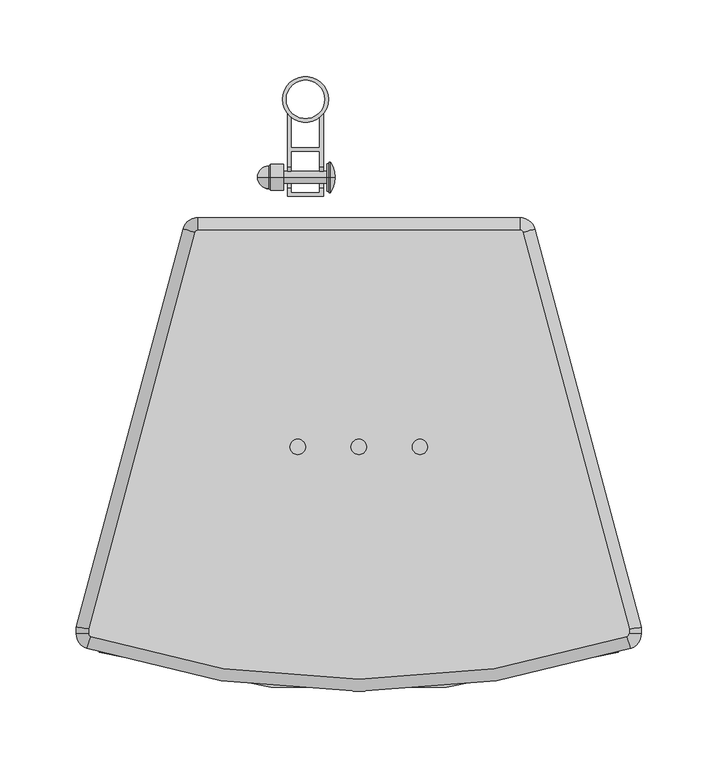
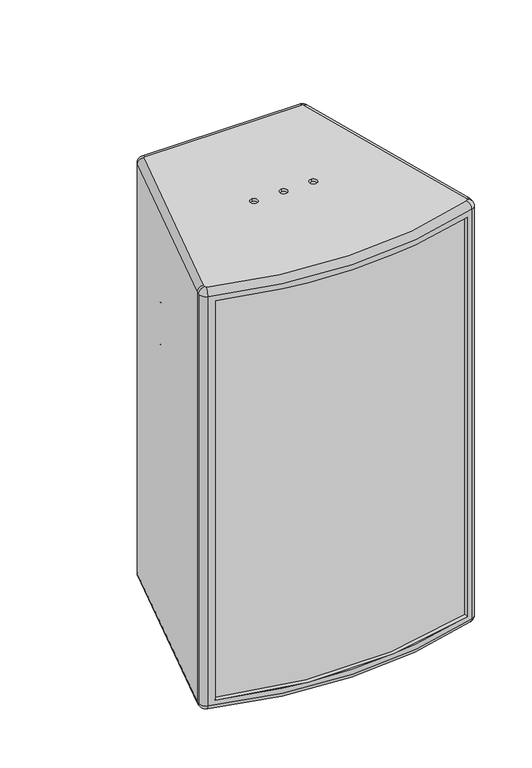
"""IFC4 building model written with IfcOpenShell, lengths in millimetres: proxy geometry, ePS12-WM02-WVM : ePS12-WM02-WVM."""

from ifc_helpers import new_model, si_unit, point, frame, frame_2d, origin, place, context, project, spatial, polyline, circle_curve, ellipse_curve, trimmed, segment, composite_curve, outline, extrude, source, transform, mapped, element, save
from ifc_brep_helpers import plane_surface, cylinder_surface, revolved_surface, advanced_brep


def generic_models_6117f933(model_context):
    return source(origin(), model_context, "Body", "SolidModel", [
        advanced_brep(
        [(34.9999424, -258.4522578, 264.6488598), (34.9999424, -248.4522578, 264.6488598), (34.9999424, -248.4522578, 268.6488598), (34.9999424, -258.4522578, 268.6488598), (74.9999424, -258.4522578, 264.6488598), (74.9999424, -248.4522578, 264.6488598), (74.9999424, -248.4522578, 268.6488598), (74.9999424, -258.4522578, 268.6488598), (-135.0000576, -387.8517681, 253.6488598), (-135.0000576, -382.6679316, 253.6488598), (204.9999424, -382.6679316, 253.6488598), (204.9999424, -387.8517681, 253.6488598), (204.9999424, -387.8517681, -316.3511402), (204.9999424, -382.6679316, -316.3511402), (-135.0000576, -382.6679316, -316.3511402), (-135.0000576, -387.8517681, -316.3511402), (34.9999424, -248.4522578, -327.3511402), (34.9999424, -258.4522578, -327.3511402), (-5.0000576, -248.4522578, -327.3511402), (-5.0000576, -258.4522578, -327.3511402), (74.9999424, -248.4522578, -327.3511402), (74.9999424, -258.4522578, -327.3511402), (-150.0000576, -371.5, 260.6488598), (-80.1756624, -110.9118096, 260.6488598), (-80.1756624, -110.9118096, -323.3511402), (-150.0000576, -371.5, -323.3511402), (-150.0000576, -375.778184, 260.6488598), (-150.0000576, -375.778184, -323.3511402), (213.0901815, -385.2887267, 260.6488598), (-143.0902966, -385.2887267, 260.6488598), (-143.0902966, -385.2887267, -323.3511439), (213.0901815, -385.2887267, -323.3511402), (219.9999424, -371.5, 260.6488598), (219.9999424, -375.778184, 260.6488598), (219.9999424, -375.778184, -323.3511402), (219.9999424, -371.5, -323.3511402), (150.1755473, -110.9118096, 260.6488598), (150.1755473, -110.9118096, -323.3511402), (140.516289, -103.5, 260.6488598), (140.516289, -103.5, -323.3511402), (-5.6566602, -108.4522578, 38.6488598), (5.6566602, -108.4522578, 38.6488598), (5.6566602, -103.5, 38.6488598), (-5.6566602, -103.5, 38.6488598), (211.9999424, -375.778184, 268.6488598), (210.6179903, -377.6802926, 268.6488598), (-140.6181054, -377.6802926, 268.6488598), (-142.0000576, -375.778184, 268.6488598), (-142.0000576, -372.55322, 268.6488598), (-72.4482558, -112.9823619, 268.6488598), (-70.5164041, -111.5, 268.6488598), (-70.5164041, -103.5, 260.6488598), (140.516289, -111.5, 268.6488598), (142.4481406, -112.9823619, 268.6488598), (211.9999424, -372.55322, 268.6488598), (-5.0000576, -258.4522578, 268.6488598), (-5.0000576, -248.4522578, 268.6488598), (140.516289, -111.5, -331.3511402), (142.4481406, -112.9823619, -331.3511402), (211.9999424, -372.55322, -331.3511402), (211.9999424, -375.778184, -331.3511402), (210.6179903, -377.6802926, -331.3511402), (-140.6181054, -377.6802926, -331.3511402), (-142.0000576, -375.778184, -331.3511402), (-142.0000576, -372.55322, -331.3511402), (-72.4482558, -112.9823619, -331.3511402), (-70.5164041, -111.5, -331.3511402), (34.9999424, -248.4522578, -331.3511402), (34.9999424, -258.4522578, -331.3511402), (-5.0000576, -248.4522578, -331.3511402), (-5.0000576, -258.4522578, -331.3511402), (74.9999424, -248.4522578, -331.3511402), (74.9999424, -258.4522578, -331.3511402), (-5.0000576, -248.4522578, 264.6488598), (-5.0000576, -258.4522578, 264.6488598), (75.6566602, -108.4522578, -31.3511402), (64.3433398, -108.4522578, -31.3511402), (5.6566602, -108.4522578, -31.3511402), (-5.6566602, -108.4522578, -31.3511402), (64.3433398, -103.5, -31.3511402), (75.6566602, -103.5, -31.3511402), (-70.5164041, -103.5, -323.3511402), (5.6566602, -103.5, -31.3511402), (-5.6566602, -103.5, -31.3511402)],
        [
            (0, 1, circle_curve(frame((34.9999424, -253.4522578, 264.6488598), z_axis=(0.0, 0.0, -1.0), x_axis=(0.0, -1.0, 0.0)), 5.0)),
            (1, 2),
            (2, 3, circle_curve(frame((34.9999424, -253.4522578, 268.6488598), z_axis=(0.0, 0.0, 1.0), x_axis=(0.0, -1.0, 0.0)), 5.0)),
            (3, 0),
            (4, 5, circle_curve(frame((74.9999424, -253.4522578, 264.6488598), z_axis=(0.0, 0.0, -1.0), x_axis=(0.0, -1.0, 0.0)), 5.0)),
            (5, 6),
            (6, 7, circle_curve(frame((74.9999424, -253.4522578, 268.6488598), z_axis=(0.0, 0.0, 1.0), x_axis=(0.0, -1.0, 0.0)), 5.0)),
            (7, 4),
            (8, 9),
            (9, 10, circle_curve(frame((34.9999424, 169.3041528, 253.6488598), z_axis=(0.0, 0.0, 1.0), x_axis=(1.0, 0.0, 0.0)), 577.5579469)),
            (10, 11),
            (11, 8, circle_curve(frame((34.9999424, 162.8031136, 253.6488598), z_axis=(0.0, 0.0, -1.0), x_axis=(1.0, 0.0, 0.0)), 576.2992267)),
            (12, 13),
            (13, 14, circle_curve(frame((34.9999424, 169.3041528, -316.3511402), z_axis=(0.0, 0.0, -1.0), x_axis=(1.0, 0.0, 0.0)), 577.5579469)),
            (14, 15),
            (15, 12, circle_curve(frame((34.9999424, 162.8031136, -316.3511402), z_axis=(0.0, 0.0, 1.0), x_axis=(1.0, 0.0, 0.0)), 576.2992267)),
            (16, 17, circle_curve(frame((34.9999424, -253.4522578, -327.3511402), z_axis=(0.0, 0.0, -1.0), x_axis=(0.0, -1.0, 0.0)), 5.0)),
            (17, 16, circle_curve(frame((34.9999424, -253.4522578, -327.3511402), z_axis=(0.0, 0.0, -1.0), x_axis=(0.0, -1.0, 0.0)), 5.0)),
            (18, 19, circle_curve(frame((-5.0000576, -253.4522578, -327.3511402), z_axis=(0.0, 0.0, -1.0), x_axis=(0.0, -1.0, 0.0)), 5.0)),
            (19, 18, circle_curve(frame((-5.0000576, -253.4522578, -327.3511402), z_axis=(0.0, 0.0, -1.0), x_axis=(0.0, -1.0, 0.0)), 5.0)),
            (20, 21, circle_curve(frame((74.9999424, -253.4522578, -327.3511402), z_axis=(0.0, 0.0, -1.0), x_axis=(0.0, -1.0, 0.0)), 5.0)),
            (21, 20, circle_curve(frame((74.9999424, -253.4522578, -327.3511402), z_axis=(0.0, 0.0, -1.0), x_axis=(0.0, -1.0, 0.0)), 5.0)),
            (22, 23),
            (23, 24),
            (24, 25),
            (25, 22),
            (26, 22),
            (25, 27),
            (27, 26),
            (28, 29, circle_curve(frame((34.9999424, 162.8031136, 260.6488598), z_axis=(0.0, 0.0, -1.0), x_axis=(1.0, 0.0, 0.0)), 576.2992267)),
            (29, 30),
            (30, 31, circle_curve(frame((34.9999424, 162.8031136, -323.3511402), z_axis=(0.0, 0.0, 1.0), x_axis=(1.0, 0.0, 0.0)), 576.2992267)),
            (31, 28),
            (11, 12),
            (15, 8),
            (32, 33),
            (33, 34),
            (34, 35),
            (35, 32),
            (36, 32),
            (35, 37),
            (37, 36),
            (38, 36, circle_curve(frame((140.516289, -113.5, 260.6488598), z_axis=(0.0, 0.0, -1.0), x_axis=(1.0, 0.0, 0.0)), 10.0)),
            (37, 39, circle_curve(frame((140.516289, -113.5, -323.3511402), z_axis=(0.0, 0.0, 1.0), x_axis=(1.0, 0.0, 0.0)), 10.0)),
            (39, 38),
            (40, 41, circle_curve(frame((0.0, -108.4522578, 38.6488598), z_axis=(0.0, -1.0, 0.0), x_axis=(-1.0, 0.0, 0.0)), 5.6566602)),
            (41, 42),
            (42, 43, circle_curve(frame((0.0, -103.5, 38.6488598), z_axis=(0.0, 1.0, 0.0), x_axis=(-1.0, 0.0, 0.0)), 5.6566602)),
            (43, 40),
            (41, 40, circle_curve(frame((0.0, -108.4522578, 38.6488598), z_axis=(0.0, -1.0, 0.0), x_axis=(-1.0, 0.0, 0.0)), 5.6566602)),
            (43, 42, circle_curve(frame((0.0, -103.5, 38.6488598), z_axis=(0.0, 1.0, 0.0), x_axis=(-1.0, 0.0, 0.0)), 5.6566602)),
            (10, 13),
            (33, 44, circle_curve(frame((211.9999424, -375.778184, 260.6488598), z_axis=(0.0, -1.0, 0.0), x_axis=(1.0, 0.0, 0.0)), 8.0)),
            (44, 45, circle_curve(frame((209.9999424, -375.778184, 268.6488598), z_axis=(0.0, 0.0, -1.0), x_axis=(1.0, 0.0, 0.0)), 2.0)),
            (45, 28, circle_curve(frame((210.6179903, -377.6802926, 260.6488598), z_axis=(0.9510542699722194, 0.30902390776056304, 0.0), x_axis=(0.30902390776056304, -0.9510542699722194, 0.0)), 8.0)),
            (28, 33, circle_curve(frame((209.9999424, -375.778184, 260.6488598), z_axis=(0.0, 0.0, 1.0), x_axis=(1.0, 0.0, 0.0)), 10.0)),
            (45, 46, circle_curve(frame((34.9999424, 162.8031136, 268.6488598), z_axis=(0.0, 0.0, -1.0), x_axis=(0.30902390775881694, -0.9510542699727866, 0.0)), 568.2992267)),
            (46, 29, circle_curve(frame((-140.6181054, -377.6802926, 260.6488598), z_axis=(0.95105426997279, -0.3090239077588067, 0.0), x_axis=(-0.3090239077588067, -0.95105426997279, 0.0)), 8.0)),
            (46, 47, circle_curve(frame((-140.0000576, -375.778184, 268.6488598), z_axis=(0.0, 0.0, -1.0), x_axis=(-0.30902390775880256, -0.9510542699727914, 0.0)), 2.0)),
            (47, 26, circle_curve(frame((-142.0000576, -375.778184, 260.6488598), z_axis=(0.0, -1.0, 0.0), x_axis=(-1.0, 0.0, 0.0)), 8.0)),
            (26, 29, circle_curve(frame((-140.0000576, -375.778184, 260.6488598), z_axis=(0.0, 0.0, 1.0), x_axis=(-0.30902390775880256, -0.9510542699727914, 0.0)), 10.0)),
            (47, 48),
            (48, 22, ellipse_curve(frame((-142.0000576, -372.55322, 260.6488598), z_axis=(-0.13052619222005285, -0.9914448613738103, 0.0), x_axis=(-0.9914448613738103, 0.13052619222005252, 0.0)), 8.0690317, 8.0)),
            (48, 49),
            (49, 23, circle_curve(frame((-72.4482558, -112.9823619, 260.6488598), z_axis=(-0.25881904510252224, -0.9659258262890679, 0.0), x_axis=(-0.9659258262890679, 0.25881904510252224, 0.0)), 8.0)),
            (49, 50, circle_curve(frame((-70.5164041, -113.5, 268.6488598), z_axis=(0.0, 0.0, -1.0), x_axis=(-0.965925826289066, 0.2588190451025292, 0.0)), 2.0)),
            (50, 51, circle_curve(frame((-70.5164041, -111.5, 260.6488598), z_axis=(-1.0, 0.0, 0.0), x_axis=(0.0, 1.0, 0.0)), 8.0)),
            (51, 23, circle_curve(frame((-70.5164041, -113.5, 260.6488598), z_axis=(0.0, 0.0, 1.0), x_axis=(-0.965925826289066, 0.2588190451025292, 0.0)), 10.0)),
            (52, 38, circle_curve(frame((140.516289, -111.5, 260.6488598), z_axis=(-1.0, 0.0, 0.0), x_axis=(0.0, 1.0, 0.0)), 8.0)),
            (38, 51),
            (50, 52),
            (53, 52, circle_curve(frame((140.516289, -113.5, 268.6488598), z_axis=(0.0, 0.0, 1.0), x_axis=(0.0, 1.0, 0.0)), 2.0)),
            (44, 54),
            (54, 53),
            (2, 3, circle_curve(frame((34.9999424, -253.4522578, 268.6488598), z_axis=(0.0, 0.0, -1.0), x_axis=(0.0, -1.0, 0.0)), 5.0)),
            (55, 56, circle_curve(frame((-5.0000576, -253.4522578, 268.6488598), z_axis=(0.0, 0.0, -1.0), x_axis=(0.0, -1.0, 0.0)), 5.0)),
            (56, 55, circle_curve(frame((-5.0000576, -253.4522578, 268.6488598), z_axis=(0.0, 0.0, -1.0), x_axis=(0.0, -1.0, 0.0)), 5.0)),
            (6, 7, circle_curve(frame((74.9999424, -253.4522578, 268.6488598), z_axis=(0.0, 0.0, -1.0), x_axis=(0.0, -1.0, 0.0)), 5.0)),
            (57, 58, circle_curve(frame((140.516289, -113.5, -331.3511402), z_axis=(0.0, 0.0, -1.0), x_axis=(0.0, 1.0, 0.0)), 2.0)),
            (58, 59),
            (59, 60),
            (60, 61, circle_curve(frame((209.9999424, -375.778184, -331.3511402), z_axis=(0.0, 0.0, -1.0), x_axis=(1.0, 0.0, 0.0)), 2.0)),
            (61, 62, circle_curve(frame((34.9999424, 162.8031136, -331.3511402), z_axis=(0.0, 0.0, -1.0), x_axis=(0.30902390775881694, -0.9510542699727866, 0.0)), 568.2992267)),
            (62, 63, circle_curve(frame((-140.0000576, -375.778184, -331.3511402), z_axis=(0.0, 0.0, -1.0), x_axis=(-0.30902390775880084, -0.951054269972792, 0.0)), 2.0)),
            (63, 64),
            (64, 65),
            (65, 66, circle_curve(frame((-70.5164041, -113.5, -331.3511402), z_axis=(0.0, 0.0, -1.0), x_axis=(-0.9659258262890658, 0.25881904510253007, 0.0)), 2.0)),
            (66, 57),
            (67, 68, circle_curve(frame((34.9999424, -253.4522578, -331.3511402), z_axis=(0.0, 0.0, 1.0), x_axis=(0.0, -1.0, 0.0)), 5.0)),
            (68, 67, circle_curve(frame((34.9999424, -253.4522578, -331.3511402), z_axis=(0.0, 0.0, 1.0), x_axis=(0.0, -1.0, 0.0)), 5.0)),
            (69, 70, circle_curve(frame((-5.0000576, -253.4522578, -331.3511402), z_axis=(0.0, 0.0, 1.0), x_axis=(0.0, -1.0, 0.0)), 5.0)),
            (70, 69, circle_curve(frame((-5.0000576, -253.4522578, -331.3511402), z_axis=(0.0, 0.0, 1.0), x_axis=(0.0, -1.0, 0.0)), 5.0)),
            (71, 72, circle_curve(frame((74.9999424, -253.4522578, -331.3511402), z_axis=(0.0, 0.0, 1.0), x_axis=(0.0, -1.0, 0.0)), 5.0)),
            (72, 71, circle_curve(frame((74.9999424, -253.4522578, -331.3511402), z_axis=(0.0, 0.0, 1.0), x_axis=(0.0, -1.0, 0.0)), 5.0)),
            (0, 1, circle_curve(frame((34.9999424, -253.4522578, 264.6488598), z_axis=(0.0, 0.0, 1.0), x_axis=(0.0, -1.0, 0.0)), 5.0)),
            (73, 74, circle_curve(frame((-5.0000576, -253.4522578, 264.6488598), z_axis=(0.0, 0.0, 1.0), x_axis=(0.0, -1.0, 0.0)), 5.0)),
            (74, 73, circle_curve(frame((-5.0000576, -253.4522578, 264.6488598), z_axis=(0.0, 0.0, 1.0), x_axis=(0.0, -1.0, 0.0)), 5.0)),
            (4, 5, circle_curve(frame((74.9999424, -253.4522578, 264.6488598), z_axis=(0.0, 0.0, 1.0), x_axis=(0.0, -1.0, 0.0)), 5.0)),
            (17, 68),
            (67, 16),
            (19, 70),
            (69, 18),
            (21, 72),
            (71, 20),
            (75, 76, circle_curve(frame((70.0, -108.4522578, -31.3511402), z_axis=(0.0, 1.0, 0.0), x_axis=(-1.0, 0.0, 0.0)), 5.6566602)),
            (76, 75, circle_curve(frame((70.0, -108.4522578, -31.3511402), z_axis=(0.0, 1.0, 0.0), x_axis=(-1.0, 0.0, 0.0)), 5.6566602)),
            (77, 78, circle_curve(frame((0.0, -108.4522578, -31.3511402), z_axis=(0.0, 1.0, 0.0), x_axis=(-1.0, 0.0, 0.0)), 5.6566602)),
            (78, 77, circle_curve(frame((0.0, -108.4522578, -31.3511402), z_axis=(0.0, 1.0, 0.0), x_axis=(-1.0, 0.0, 0.0)), 5.6566602)),
            (76, 79),
            (79, 80, circle_curve(frame((70.0, -103.5, -31.3511402), z_axis=(0.0, 1.0, 0.0), x_axis=(-1.0, 0.0, 0.0)), 5.6566602)),
            (80, 75),
            (80, 79, circle_curve(frame((70.0, -103.5, -31.3511402), z_axis=(0.0, 1.0, 0.0), x_axis=(-1.0, 0.0, 0.0)), 5.6566602)),
            (39, 81),
            (81, 51),
            (82, 83, circle_curve(frame((0.0, -103.5, -31.3511402), z_axis=(0.0, -1.0, 0.0), x_axis=(-1.0, 0.0, 0.0)), 5.6566602)),
            (83, 82, circle_curve(frame((0.0, -103.5, -31.3511402), z_axis=(0.0, -1.0, 0.0), x_axis=(-1.0, 0.0, 0.0)), 5.6566602)),
            (9, 14),
            (27, 30, circle_curve(frame((-140.0000576, -375.778184, -323.3511402), z_axis=(0.0, 0.0, 1.0), x_axis=(1.0, 0.0, 0.0)), 10.0)),
            (31, 34, circle_curve(frame((209.9999424, -375.778184, -323.3511402), z_axis=(0.0, 0.0, 1.0), x_axis=(1.0, 0.0, 0.0)), 10.0)),
            (53, 36, circle_curve(frame((142.4481406, -112.9823619, 260.6488598), z_axis=(-0.25881904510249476, 0.9659258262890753, 0.0), x_axis=(0.9659258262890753, 0.25881904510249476, 0.0)), 8.0)),
            (54, 32, ellipse_curve(frame((211.9999424, -372.55322, 260.6488598), z_axis=(-0.13052619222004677, 0.9914448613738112, 0.0), x_axis=(0.9914448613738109, 0.13052619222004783, 0.0)), 8.0690317, 8.0)),
            (61, 31, circle_curve(frame((210.6179903, -377.6802926, -323.3511402), z_axis=(-0.9510542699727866, -0.30902390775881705, 0.0), x_axis=(0.30902390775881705, -0.9510542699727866, 0.0)), 8.0)),
            (30, 62, circle_curve(frame((-140.6181054, -377.6802926, -323.3511402), z_axis=(0.95105426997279, -0.30902390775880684, 0.0), x_axis=(-0.30902390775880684, -0.95105426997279, 0.0)), 8.0)),
            (27, 63, circle_curve(frame((-142.0000576, -375.778184, -323.3511402), z_axis=(0.0, -0.9999999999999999, 0.0), x_axis=(-0.9999999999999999, 0.0, 0.0)), 8.0)),
            (25, 64, ellipse_curve(frame((-142.0000576, -372.55322, -323.3511402), z_axis=(-0.13052619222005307, -0.9914448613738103, 0.0), x_axis=(-0.9914448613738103, 0.13052619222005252, 0.0)), 8.0690317, 8.0)),
            (24, 65, circle_curve(frame((-72.4482558, -112.9823619, -323.3511402), z_axis=(-0.25881904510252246, -0.9659258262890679, 0.0), x_axis=(-0.9659258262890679, 0.25881904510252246, 0.0)), 8.0)),
            (24, 81, circle_curve(frame((-70.5164041, -113.5, -323.3511402), z_axis=(0.0, 0.0, -1.0), x_axis=(-0.9659258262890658, 0.25881904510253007, 0.0)), 10.0)),
            (81, 66, circle_curve(frame((-70.5164041, -111.5, -323.3511402), z_axis=(-1.0, 0.0, 0.0), x_axis=(0.0, 1.0, 0.0)), 8.0)),
            (39, 57, circle_curve(frame((140.516289, -111.5, -323.3511402), z_axis=(-1.0, 0.0, 0.0), x_axis=(0.0, 1.0, 0.0)), 8.0)),
            (73, 56),
            (55, 74),
            (78, 83),
            (82, 77),
            (37, 58, circle_curve(frame((142.4481406, -112.9823619, -323.3511402), z_axis=(-0.2588190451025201, 0.9659258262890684, 0.0), x_axis=(0.9659258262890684, 0.2588190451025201, 0.0)), 8.0)),
            (35, 59, ellipse_curve(frame((211.9999424, -372.55322, -323.3511402), z_axis=(-0.13052619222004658, 0.9914448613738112, 0.0), x_axis=(0.9914448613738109, 0.13052619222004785, 0.0)), 8.0690317, 8.0)),
            (34, 60, circle_curve(frame((211.9999424, -375.778184, -323.3511402), z_axis=(0.0, 1.0, 0.0), x_axis=(1.0, 0.0, 0.0)), 8.0)),
        ],
        [
            revolved_surface(polyline([(34.9999424, -258.4522578, 268.6488598), (34.9999424, -258.4522578, 264.6488598)]), (34.9999424, -253.4522578, 264.6488598), (0.0, 0.0, 1.0)),
            revolved_surface(polyline([(74.9999424, -258.4522578, 268.6488598), (74.9999424, -258.4522578, 264.6488598)]), (74.9999424, -253.4522578, 268.6488598), (0.0, 0.0, 1.0)),
            plane_surface(frame((204.9999424, -387.8517681, 253.6488598), z_axis=(0.0, 0.0, -1.0), x_axis=(0.0, 1.0, 0.0))),
            plane_surface(frame((204.9999424, -387.8517681, -316.3511402), z_axis=(0.0, 0.0, 1.0), x_axis=(0.0, -1.0, 0.0))),
            plane_surface(frame((34.9999424, -258.4522578, -327.3511402), z_axis=(0.0, 0.0, -1.0), x_axis=(1.0, 0.0, 0.0))),
            plane_surface(frame((-80.1756624, -110.9118096, 268.6488598), z_axis=(-0.9659258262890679, 0.25881904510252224, 0.0), x_axis=(0.0, 0.0, -1.0))),
            plane_surface(frame((-150.0000576, -371.5, 268.6488598), z_axis=(-1.0, 0.0, 0.0), x_axis=(0.0, 0.0, -1.0))),
            cylinder_surface(frame((34.9999424, 162.8031136, -331.3511402), z_axis=(0.0, 0.0, 1.0), x_axis=(1.0, 0.0, 0.0)), 576.2992267),
            plane_surface(frame((219.9999424, -375.778184, 268.6488598), z_axis=(1.0, 0.0, 0.0), x_axis=(0.0, 0.0, -1.0))),
            plane_surface(frame((219.9999424, -371.5, 268.6488598), z_axis=(0.9659258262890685, 0.25881904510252, 0.0), x_axis=(0.0, 0.0, -1.0))),
            cylinder_surface(frame((140.516289, -113.5, -331.3511402), z_axis=(0.0, 0.0, 1.0), x_axis=(1.0, 0.0, 0.0)), 10.0),
            revolved_surface(polyline([(-5.6566602, -103.5, 38.6488598), (-5.6566602, -108.4522578, 38.6488598)]), (0.0, -96.4522578, 38.6488598), (0.0, 1.0, 0.0)),
            plane_surface(frame((204.9999424, -387.8517681, 253.6488598), z_axis=(-1.0, 0.0, 0.0), x_axis=(0.0, 0.0, -1.0))),
            revolved_surface(trimmed(ellipse_curve(frame((211.9999424, -375.778184, 260.6488598), z_axis=(0.0, 1.0, 0.0), x_axis=(1.0, 0.0, 0.0)), 8.0, 8.0), [point((211.9999424, -375.778184, 268.6488598))], [point((219.9999424, -375.778184, 260.6488598))], True, "CARTESIAN"), (209.9999424, -375.778184, 268.6488598), (0.0, 0.0, -1.0)),
            revolved_surface(trimmed(ellipse_curve(frame((210.6179903, -377.6802926, 260.6488598), z_axis=(0.9510542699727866, 0.30902390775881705, 0.0), x_axis=(0.30902390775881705, -0.9510542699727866, 0.0)), 8.0, 8.0), [point((210.6179903, -377.6802926, 268.6488598))], [point((213.0901815, -385.2887267, 260.6488598))], True, "CARTESIAN"), (34.9999424, 162.8031136, 268.6488598), (0.0, 0.0, -1.0)),
            revolved_surface(trimmed(ellipse_curve(frame((-140.6181054, -377.6802926, 260.6488598), z_axis=(0.9510542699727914, -0.30902390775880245, 0.0), x_axis=(-0.30902390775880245, -0.9510542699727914, 0.0)), 8.0, 8.0), [point((-140.6181054, -377.6802926, 268.6488598))], [point((-143.0902966, -385.2887267, 260.6488598))], True, "CARTESIAN"), (-140.0000576, -375.778184, 268.6488598), (0.0, 0.0, -1.0)),
            cylinder_surface(frame((-142.0000576, -375.778184, 260.6488598), z_axis=(0.0, 1.0, 0.0), x_axis=(-1.0, 0.0, 0.0)), 8.0),
            cylinder_surface(frame((-142.2726509, -373.5705524, 260.6488598), z_axis=(0.25881904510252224, 0.9659258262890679, 0.0), x_axis=(-0.9659258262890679, 0.25881904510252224, 0.0)), 8.0),
            revolved_surface(trimmed(ellipse_curve(frame((-72.4482558, -112.9823619, 260.6488598), z_axis=(-0.2588190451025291, -0.965925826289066, 0.0), x_axis=(-0.965925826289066, 0.2588190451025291, 0.0)), 8.0, 8.0), [point((-72.4482558, -112.9823619, 268.6488598))], [point((-80.1756624, -110.9118096, 260.6488598))], True, "CARTESIAN"), (-70.5164041, -113.5, 268.6488598), (0.0, 0.0, -1.0)),
            cylinder_surface(frame((-70.5164041, -111.5, 260.6488598), z_axis=(1.0, 0.0, 0.0), x_axis=(0.0, 1.0, 0.0)), 8.0),
            plane_surface(frame((-76.6724798, -103.5, 268.6488598), z_axis=(0.0, 0.0, 1.0), x_axis=(-1.0, 0.0, 0.0))),
            plane_surface(frame((-76.6724798, -103.5, -331.3511402), z_axis=(0.0, 0.0, -1.0), x_axis=(1.0, 0.0, 0.0))),
            plane_surface(frame((34.9999424, -258.4522578, 264.6488598), z_axis=(0.0, 0.0, 1.0), x_axis=(-1.0, 0.0, 0.0))),
            revolved_surface(polyline([(34.9999424, -258.4522578, -327.3511402), (34.9999424, -258.4522578, -331.3511402)]), (34.9999424, -253.4522578, -335.3511402), (0.0, 0.0, 1.0)),
            revolved_surface(polyline([(-5.0000576, -258.4522578, -327.3511402), (-5.0000576, -258.4522578, -331.3511402)]), (-5.0000576, -253.4522578, -331.3511402), (0.0, 0.0, 1.0)),
            revolved_surface(polyline([(74.9999424, -258.4522578, -327.3511402), (74.9999424, -258.4522578, -331.3511402)]), (74.9999424, -253.4522578, -331.3511402), (0.0, 0.0, 1.0)),
            plane_surface(frame((-5.6566602, -108.4522578, -31.3511402), z_axis=(0.0, 1.0, 0.0), x_axis=(0.0, 0.0, -1.0))),
            revolved_surface(polyline([(64.3433398, -103.5, -31.3511402), (64.3433398, -108.4522578, -31.3511402)]), (70.0, -96.4522578, -31.3511402), (0.0, 1.0, 0.0)),
            plane_surface(frame((140.516289, -103.5, 268.6488598), z_axis=(0.0, 1.0, 0.0), x_axis=(0.0, 0.0, -1.0))),
            cylinder_surface(frame((34.9999424, 169.3041528, -316.3511402), z_axis=(0.0, 0.0, -1.0), x_axis=(1.0, 0.0, 0.0)), 577.5579469),
            plane_surface(frame((-135.0000576, -382.6679316, 253.6488598), z_axis=(1.0, 0.0, 0.0), x_axis=(0.0, 0.0, -1.0))),
            cylinder_surface(frame((-140.0000576, -375.778184, -331.3511402), z_axis=(0.0, 0.0, 1.0), x_axis=(1.0, 0.0, 0.0)), 10.0),
            cylinder_surface(frame((209.9999424, -375.778184, -331.3511402), z_axis=(0.0, 0.0, 1.0), x_axis=(1.0, 0.0, 0.0)), 10.0),
            revolved_surface(trimmed(ellipse_curve(frame((140.516289, -111.5, 260.6488598), z_axis=(-1.0, 0.0, 0.0), x_axis=(0.0, 1.0, 0.0)), 8.0, 8.0), [point((140.516289, -111.5, 268.6488598))], [point((140.516289, -103.5, 260.6488598))], True, "CARTESIAN"), (140.516289, -113.5, 268.6488598), (0.0, 0.0, -1.0)),
            cylinder_surface(frame((142.4481406, -112.9823619, 260.6488598), z_axis=(0.2588190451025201, -0.9659258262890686, 0.0), x_axis=(0.9659258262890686, 0.2588190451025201, 0.0)), 8.0),
            revolved_surface(trimmed(ellipse_curve(frame((210.6179903, -377.6802926, -323.3511402), z_axis=(0.9510542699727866, 0.30902390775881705, 0.0), x_axis=(0.30902390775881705, -0.9510542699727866, 0.0)), 8.0, 8.0), [point((213.0901815, -385.2887267, -323.3511402))], [point((210.6179903, -377.6802926, -331.3511402))], True, "CARTESIAN"), (34.9999424, 162.8031136, -331.3511402), (0.0, 0.0, -1.0)),
            revolved_surface(trimmed(ellipse_curve(frame((-140.6181054, -377.6802926, -323.3511402), z_axis=(0.951054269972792, -0.309023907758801, 0.0), x_axis=(-0.309023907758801, -0.951054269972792, 0.0)), 8.0, 8.0), [point((-143.0902966, -385.2887267, -323.3511402))], [point((-140.6181054, -377.6802926, -331.3511402))], True, "CARTESIAN"), (-140.0000576, -375.778184, -331.3511402), (0.0, 0.0, -1.0)),
            cylinder_surface(frame((-142.0000576, -375.778184, -323.3511402), z_axis=(0.0, 1.0, 0.0), x_axis=(-1.0, 0.0, 0.0)), 8.0),
            cylinder_surface(frame((-142.2726509, -373.5705524, -323.3511402), z_axis=(0.25881904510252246, 0.9659258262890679, 0.0), x_axis=(-0.9659258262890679, 0.25881904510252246, 0.0)), 8.0),
            revolved_surface(trimmed(ellipse_curve(frame((-72.4482558, -112.9823619, -323.3511402), z_axis=(-0.25881904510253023, -0.9659258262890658, 0.0), x_axis=(-0.9659258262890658, 0.25881904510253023, 0.0)), 8.0, 8.0), [point((-80.1756624, -110.9118096, -323.3511402))], [point((-72.4482558, -112.9823619, -331.3511402))], True, "CARTESIAN"), (-70.5164041, -113.5, -331.3511402), (0.0, 0.0, -1.0)),
            cylinder_surface(frame((-70.5164041, -111.5, -323.3511402), z_axis=(1.0, 0.0, 0.0), x_axis=(0.0, 1.0, 0.0)), 8.0),
            revolved_surface(polyline([(-5.0000576, -258.4522578, 268.6488598), (-5.0000576, -258.4522578, 264.6488598)]), (-5.0000576, -253.4522578, 268.6488598), (0.0, 0.0, 1.0)),
            revolved_surface(polyline([(-5.6566602, -103.5, -31.3511402), (-5.6566602, -108.4522578, -31.3511402)]), (0.0, -108.4522578, -31.3511402), (0.0, 1.0, 0.0)),
            cylinder_surface(frame((-70.5164041, -113.5, -331.3511402), z_axis=(0.0, 0.0, 1.0), x_axis=(1.0, 0.0, 0.0)), 10.0),
            cylinder_surface(frame((211.9999424, -371.5, 260.6488598), z_axis=(0.0, -1.0, 0.0), x_axis=(1.0, 0.0, 0.0)), 8.0),
            revolved_surface(trimmed(ellipse_curve(frame((140.516289, -111.5, -323.3511402), z_axis=(-1.0, 0.0, 0.0), x_axis=(0.0, 1.0, 0.0)), 8.0, 8.0), [point((140.516289, -103.5, -323.3511402))], [point((140.516289, -111.5, -331.3511402))], True, "CARTESIAN"), (140.516289, -113.5, -331.3511402), (0.0, 0.0, -1.0)),
            cylinder_surface(frame((142.4481406, -112.9823619, -323.3511402), z_axis=(0.25881904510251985, -0.9659258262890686, 0.0), x_axis=(0.9659258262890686, 0.25881904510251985, 0.0)), 8.0),
            cylinder_surface(frame((211.9999424, -371.5, -323.3511402), z_axis=(0.0, -1.0, 0.0), x_axis=(1.0, 0.0, 0.0)), 8.0),
            revolved_surface(trimmed(ellipse_curve(frame((211.9999424, -375.778184, -323.3511402), z_axis=(0.0, 1.0, 0.0), x_axis=(1.0, 0.0, 0.0)), 8.0, 8.0), [point((219.9999424, -375.778184, -323.3511402))], [point((211.9999424, -375.778184, -331.3511402))], True, "CARTESIAN"), (209.9999424, -375.778184, -331.3511402), (0.0, 0.0, -1.0)),
        ],
        [
            (0, [[1, 2, 3, 4]]),
            (1, [[5, 6, 7, 8]]),
            (2, [[9, 10, 11, 12]]),
            (3, [[13, 14, 15, 16]]),
            (4, [[17, 18]]),
            (4, [[19, 20]]),
            (4, [[21, 22]]),
            (5, [[23, 24, 25, 26]]),
            (6, [[27, -26, 28, 29]]),
            (7, [[30, 31, 32, 33], [-12, 34, -16, 35]]),
            (8, [[36, 37, 38, 39]]),
            (9, [[40, -39, 41, 42]]),
            (10, [[43, -42, 44, 45]]),
            (11, [[46, 47, 48, 49]]),
            (11, [[50, -49, 51, -47]]),
            (12, [[-11, 52, -13, -34]]),
            (13, [[53, 54, 55, 56]]),
            (14, [[-55, 57, 58, -30]]),
            (15, [[-58, 59, 60, 61]]),
            (16, [[-60, 62, 63, -27]]),
            (17, [[-63, 64, 65, -23]]),
            (18, [[-65, 66, 67, 68]]),
            (19, [[69, 70, -67, 71]]),
            (20, [[72, -71, -66, -64, -62, -59, -57, -54, 73, 74], [-3, 75], [76, 77], [-7, 78]]),
            (21, [[79, 80, 81, 82, 83, 84, 85, 86, 87, 88], [89, 90], [91, 92], [93, 94]]),
            (22, [[-1, 95]]),
            (22, [[96, 97]]),
            (22, [[-5, 98]]),
            (23, [[-18, 99, -89, 100]]),
            (24, [[-20, 101, -91, 102]]),
            (25, [[-22, 103, -93, 104]]),
            (26, [[105, 106]]),
            (26, [[-46, -50]]),
            (26, [[107, 108]]),
            (27, [[-106, 109, 110, 111]]),
            (27, [[-105, -111, 112, -109]]),
            (28, [[-70, -45, 113, 114], [115, 116], [-110, -112], [-48, -51]]),
            (29, [[-10, 117, -14, -52]]),
            (30, [[-9, -35, -15, -117]]),
            (31, [[-61, -29, 118, -31]]),
            (32, [[-56, -33, 119, -37]]),
            (33, [[120, -43, -69, -72]]),
            (34, [[-120, -74, 121, -40]]),
            (35, [[122, -32, 123, -83]]),
            (36, [[-123, -118, 124, -84]]),
            (37, [[-124, -28, 125, -85]]),
            (38, [[-125, -25, 126, -86]]),
            (39, [[-126, 127, 128, -87]]),
            (40, [[129, -88, -128, -113]]),
            (0, [[-95, -4, -75, -2]]),
            (41, [[-96, 130, -76, 131]]),
            (41, [[-97, -131, -77, -130]]),
            (1, [[-98, -8, -78, -6]]),
            (23, [[-17, -100, -90, -99]]),
            (24, [[-19, -102, -92, -101]]),
            (25, [[-21, -104, -94, -103]]),
            (42, [[-108, 132, -115, 133]]),
            (42, [[-107, -133, -116, -132]]),
            (43, [[-68, -114, -127, -24]]),
            (44, [[-121, -73, -53, -36]]),
            (45, [[134, -79, -129, -44]]),
            (46, [[-134, -41, 135, -80]]),
            (47, [[-135, -38, 136, -81]]),
            (48, [[-136, -119, -122, -82]]),
        ],
    ),
        advanced_brep(
        [(16.4820858, -77.0, -39.5), (16.4820858, -77.0, -19.5), (19.4412891, -77.0, -29.5), (15.45, -77.0, -39.5), (15.45, -77.0, -19.5), (15.45, -77.0, -38.5), (15.45, -77.0, -20.5), (14.25, -77.0, -38.5), (14.25, -77.0, -20.5), (14.25, -77.0, -33.5), (14.25, -77.0, -25.5), (-14.25, -77.0, -33.5), (-14.25, -77.0, -25.5), (-14.25, -77.0, -38.018295), (-14.25, -77.0, -20.981705), (-22.8324989, -77.0, -38.018295), (-22.8324989, -77.0, -20.981705), (-23.85, -77.0, -37.0007939), (-23.85, -77.0, -21.9992061), (-31.3507939, -77.0, -29.5)],
        [
            (0, 1, circle_curve(frame((16.4820858, -77.0, -29.5), z_axis=(1.0, 0.0, 0.0), x_axis=(0.0, 0.0, 1.0)), 10.0)),
            (1, 2, circle_curve(frame((1.2644996, -77.0, -29.4410373), z_axis=(0.0, 1.0, 0.0), x_axis=(1.0, 0.0, 0.0)), 18.1768851)),
            (2, 0, circle_curve(frame((1.2644996, -77.0, -29.5589627), z_axis=(0.0, 1.0, 0.0), x_axis=(1.0, 0.0, 0.0)), 18.1768851)),
            (1, 0, circle_curve(frame((16.4820858, -77.0, -29.5), z_axis=(1.0, 0.0, 0.0), x_axis=(0.0, 0.0, 1.0)), 10.0)),
            (3, 4, circle_curve(frame((15.45, -77.0, -29.5), z_axis=(1.0, 0.0, 0.0), x_axis=(0.0, 0.0, 1.0)), 10.0)),
            (4, 1),
            (0, 3),
            (4, 3, circle_curve(frame((15.45, -77.0, -29.5), z_axis=(1.0, 0.0, 0.0), x_axis=(0.0, 0.0, 1.0)), 10.0)),
            (5, 6, circle_curve(frame((15.45, -77.0, -29.5), z_axis=(1.0, 0.0, 0.0), x_axis=(0.0, 0.0, 1.0)), 9.0)),
            (6, 4),
            (3, 5),
            (6, 5, circle_curve(frame((15.45, -77.0, -29.5), z_axis=(1.0, 0.0, 0.0), x_axis=(0.0, 0.0, 1.0)), 9.0)),
            (7, 8, circle_curve(frame((14.25, -77.0, -29.5), z_axis=(1.0, 0.0, 0.0), x_axis=(0.0, 0.0, 1.0)), 9.0)),
            (8, 6),
            (5, 7),
            (8, 7, circle_curve(frame((14.25, -77.0, -29.5), z_axis=(1.0, 0.0, 0.0), x_axis=(0.0, 0.0, 1.0)), 9.0)),
            (9, 10, circle_curve(frame((14.25, -77.0, -29.5), z_axis=(1.0, 0.0, 0.0), x_axis=(0.0, 0.0, 1.0)), 4.0)),
            (10, 8),
            (7, 9),
            (10, 9, circle_curve(frame((14.25, -77.0, -29.5), z_axis=(1.0, 0.0, 0.0), x_axis=(0.0, 0.0, 1.0)), 4.0)),
            (11, 12, circle_curve(frame((-14.25, -77.0, -29.5), z_axis=(1.0, 0.0, 0.0), x_axis=(0.0, 0.0, 1.0)), 4.0)),
            (12, 10),
            (9, 11),
            (12, 11, circle_curve(frame((-14.25, -77.0, -29.5), z_axis=(1.0, 0.0, 0.0), x_axis=(0.0, 0.0, 1.0)), 4.0)),
            (13, 14, circle_curve(frame((-14.25, -77.0, -29.5), z_axis=(1.0, 0.0, 0.0), x_axis=(0.0, 0.0, 1.0)), 8.518295)),
            (14, 12),
            (11, 13),
            (14, 13, circle_curve(frame((-14.25, -77.0, -29.5), z_axis=(1.0, 0.0, 0.0), x_axis=(0.0, 0.0, 1.0)), 8.518295)),
            (15, 16, circle_curve(frame((-22.8324989, -77.0, -29.5), z_axis=(1.0, 0.0, 0.0), x_axis=(0.0, 0.0, 1.0)), 8.518295)),
            (16, 14),
            (13, 15),
            (16, 15, circle_curve(frame((-22.8324989, -77.0, -29.5), z_axis=(1.0, 0.0, 0.0), x_axis=(0.0, 0.0, 1.0)), 8.518295)),
            (17, 18, circle_curve(frame((-23.85, -77.0, -29.5), z_axis=(1.0, 0.0, 0.0), x_axis=(0.0, 0.0, 1.0)), 7.5007939)),
            (18, 16),
            (15, 17),
            (18, 17, circle_curve(frame((-23.85, -77.0, -29.5), z_axis=(1.0, 0.0, 0.0), x_axis=(0.0, 0.0, 1.0)), 7.5007939)),
            (19, 18, circle_curve(frame((-23.85, -77.0, -29.5), z_axis=(0.0, 1.0, 0.0), x_axis=(1.0, 0.0, 0.0)), 7.5007939)),
            (17, 19, circle_curve(frame((-23.85, -77.0, -29.5), z_axis=(0.0, 1.0, 0.0), x_axis=(1.0, 0.0, 0.0)), 7.5007939)),
        ],
        [
            revolved_surface(trimmed(ellipse_curve(frame((1.2644996, -77.0, -29.4410373), z_axis=(0.0, -1.0, 0.0), x_axis=(1.0, 0.0, 0.0)), 18.1768851, 18.1768851), [point((19.4412891, -77.0, -29.5))], [point((16.4820858, -77.0, -19.5))], True, "CARTESIAN"), (-34.7415568, -77.0, -29.5), (-1.0, 0.0, 0.0)),
            cylinder_surface(frame((-34.7415568, -77.0, -29.5), z_axis=(-1.0, 0.0, 0.0), x_axis=(0.0, 0.0, 1.0)), 10.0),
            plane_surface(frame((15.45, -77.0, -29.5), z_axis=(-1.0, 0.0, 0.0), x_axis=(0.0, 0.0, 1.0))),
            cylinder_surface(frame((-34.7415568, -77.0, -29.5), z_axis=(-1.0, 0.0, 0.0), x_axis=(0.0, 0.0, 1.0)), 9.0),
            plane_surface(frame((14.25, -77.0, -29.5), z_axis=(-1.0, 0.0, 0.0), x_axis=(0.0, 0.0, 1.0))),
            cylinder_surface(frame((-34.7415568, -77.0, -29.5), z_axis=(-1.0, 0.0, 0.0), x_axis=(0.0, 0.0, 1.0)), 4.0),
            plane_surface(frame((-14.25, -77.0, -29.5), z_axis=(1.0, 0.0, 0.0), x_axis=(0.0, 0.0, 1.0))),
            cylinder_surface(frame((-34.7415568, -77.0, -29.5), z_axis=(-1.0, 0.0, 0.0), x_axis=(0.0, 0.0, 1.0)), 8.518295),
            revolved_surface(polyline([(-22.8324989, -77.0, -20.981705), (-23.85, -77.0, -21.9992061)]), (-34.7415568, -77.0, -29.5), (-1.0, 0.0, 0.0)),
            revolved_surface(trimmed(ellipse_curve(frame((-23.85, -77.0, -29.5), z_axis=(0.0, -1.0, 0.0), x_axis=(1.0, 0.0, 0.0)), 7.5007939, 7.5007939), [point((-23.85, -77.0, -21.9992061))], [point((-31.3507939, -77.0, -29.5))], True, "CARTESIAN"), (-34.7415568, -77.0, -29.5), (-1.0, 0.0, 0.0)),
        ],
        [
            (0, [[1, 2, 3]]),
            (0, [[4, -3, -2]]),
            (1, [[5, 6, -1, 7]]),
            (1, [[8, -7, -4, -6]]),
            (2, [[9, 10, -5, 11]]),
            (2, [[12, -11, -8, -10]]),
            (3, [[13, 14, -9, 15]]),
            (3, [[16, -15, -12, -14]]),
            (4, [[17, 18, -13, 19]]),
            (4, [[20, -19, -16, -18]]),
            (5, [[21, 22, -17, 23]]),
            (5, [[24, -23, -20, -22]]),
            (6, [[25, 26, -21, 27]]),
            (6, [[28, -27, -24, -26]]),
            (7, [[29, 30, -25, 31]]),
            (7, [[32, -31, -28, -30]]),
            (8, [[33, 34, -29, 35]]),
            (8, [[36, -35, -32, -34]]),
            (9, [[37, -33, 38]]),
            (9, [[-38, -36, -37]]),
        ],
    ),
        advanced_brep(
        [(16.4820858, -77.0, 20.55), (16.4820858, -77.0, 40.55), (19.4412891, -77.0, 30.55), (15.45, -77.0, 20.55), (15.45, -77.0, 40.55), (15.45, -77.0, 21.55), (15.45, -77.0, 39.55), (14.25, -77.0, 21.55), (14.25, -77.0, 39.55), (14.25, -77.0, 26.55), (14.25, -77.0, 34.55), (-14.25, -77.0, 26.55), (-14.25, -77.0, 34.55), (-14.25, -77.0, 22.031705), (-14.25, -77.0, 39.068295), (-22.8324989, -77.0, 22.031705), (-22.8324989, -77.0, 39.068295), (-23.85, -77.0, 23.0492061), (-23.85, -77.0, 38.0507939), (-31.3507939, -77.0, 30.55)],
        [
            (0, 1, circle_curve(frame((16.4820858, -77.0, 30.55), z_axis=(1.0, 0.0, 0.0), x_axis=(0.0, 0.0, 1.0)), 10.0)),
            (1, 2, circle_curve(frame((1.2644996, -77.0, 30.6089627), z_axis=(0.0, 1.0, 0.0), x_axis=(1.0, 0.0, 0.0)), 18.1768851)),
            (2, 0, circle_curve(frame((1.2644996, -77.0, 30.4910373), z_axis=(0.0, 1.0, 0.0), x_axis=(1.0, 0.0, 0.0)), 18.1768851)),
            (1, 0, circle_curve(frame((16.4820858, -77.0, 30.55), z_axis=(1.0, 0.0, 0.0), x_axis=(0.0, 0.0, 1.0)), 10.0)),
            (3, 4, circle_curve(frame((15.45, -77.0, 30.55), z_axis=(1.0, 0.0, 0.0), x_axis=(0.0, 0.0, 1.0)), 10.0)),
            (4, 1),
            (0, 3),
            (4, 3, circle_curve(frame((15.45, -77.0, 30.55), z_axis=(1.0, 0.0, 0.0), x_axis=(0.0, 0.0, 1.0)), 10.0)),
            (5, 6, circle_curve(frame((15.45, -77.0, 30.55), z_axis=(1.0, 0.0, 0.0), x_axis=(0.0, 0.0, 1.0)), 9.0)),
            (6, 4),
            (3, 5),
            (6, 5, circle_curve(frame((15.45, -77.0, 30.55), z_axis=(1.0, 0.0, 0.0), x_axis=(0.0, 0.0, 1.0)), 9.0)),
            (7, 8, circle_curve(frame((14.25, -77.0, 30.55), z_axis=(1.0, 0.0, 0.0), x_axis=(0.0, 0.0, 1.0)), 9.0)),
            (8, 6),
            (5, 7),
            (8, 7, circle_curve(frame((14.25, -77.0, 30.55), z_axis=(1.0, 0.0, 0.0), x_axis=(0.0, 0.0, 1.0)), 9.0)),
            (9, 10, circle_curve(frame((14.25, -77.0, 30.55), z_axis=(1.0, 0.0, 0.0), x_axis=(0.0, 0.0, 1.0)), 4.0)),
            (10, 8),
            (7, 9),
            (10, 9, circle_curve(frame((14.25, -77.0, 30.55), z_axis=(1.0, 0.0, 0.0), x_axis=(0.0, 0.0, 1.0)), 4.0)),
            (11, 12, circle_curve(frame((-14.25, -77.0, 30.55), z_axis=(1.0, 0.0, 0.0), x_axis=(0.0, 0.0, 1.0)), 4.0)),
            (12, 10),
            (9, 11),
            (12, 11, circle_curve(frame((-14.25, -77.0, 30.55), z_axis=(1.0, 0.0, 0.0), x_axis=(0.0, 0.0, 1.0)), 4.0)),
            (13, 14, circle_curve(frame((-14.25, -77.0, 30.55), z_axis=(1.0, 0.0, 0.0), x_axis=(0.0, 0.0, 1.0)), 8.518295)),
            (14, 12),
            (11, 13),
            (14, 13, circle_curve(frame((-14.25, -77.0, 30.55), z_axis=(1.0, 0.0, 0.0), x_axis=(0.0, 0.0, 1.0)), 8.518295)),
            (15, 16, circle_curve(frame((-22.8324989, -77.0, 30.55), z_axis=(1.0, 0.0, 0.0), x_axis=(0.0, 0.0, 1.0)), 8.518295)),
            (16, 14),
            (13, 15),
            (16, 15, circle_curve(frame((-22.8324989, -77.0, 30.55), z_axis=(1.0, 0.0, 0.0), x_axis=(0.0, 0.0, 1.0)), 8.518295)),
            (17, 18, circle_curve(frame((-23.85, -77.0, 30.55), z_axis=(1.0, 0.0, 0.0), x_axis=(0.0, 0.0, 1.0)), 7.5007939)),
            (18, 16),
            (15, 17),
            (18, 17, circle_curve(frame((-23.85, -77.0, 30.55), z_axis=(1.0, 0.0, 0.0), x_axis=(0.0, 0.0, 1.0)), 7.5007939)),
            (19, 18, circle_curve(frame((-23.85, -77.0, 30.55), z_axis=(0.0, 1.0, 0.0), x_axis=(1.0, 0.0, 0.0)), 7.5007939)),
            (17, 19, circle_curve(frame((-23.85, -77.0, 30.55), z_axis=(0.0, 1.0, 0.0), x_axis=(1.0, 0.0, 0.0)), 7.5007939)),
        ],
        [
            revolved_surface(trimmed(ellipse_curve(frame((1.2644996, -77.0, 30.6089627), z_axis=(0.0, -1.0, 0.0), x_axis=(1.0, 0.0, 0.0)), 18.1768851, 18.1768851), [point((19.4412891, -77.0, 30.55))], [point((16.4820858, -77.0, 40.55))], True, "CARTESIAN"), (-34.7415568, -77.0, 30.55), (-1.0, 0.0, 0.0)),
            cylinder_surface(frame((-34.7415568, -77.0, 30.55), z_axis=(-1.0, 0.0, 0.0), x_axis=(0.0, 0.0, 1.0)), 10.0),
            plane_surface(frame((15.45, -77.0, 30.55), z_axis=(-1.0, 0.0, 0.0), x_axis=(0.0, 0.0, 1.0))),
            cylinder_surface(frame((-34.7415568, -77.0, 30.55), z_axis=(-1.0, 0.0, 0.0), x_axis=(0.0, 0.0, 1.0)), 9.0),
            plane_surface(frame((14.25, -77.0, 30.55), z_axis=(-1.0, 0.0, 0.0), x_axis=(0.0, 0.0, 1.0))),
            cylinder_surface(frame((-34.7415568, -77.0, 30.55), z_axis=(-1.0, 0.0, 0.0), x_axis=(0.0, 0.0, 1.0)), 4.0),
            plane_surface(frame((-14.25, -77.0, 30.55), z_axis=(1.0, 0.0, 0.0), x_axis=(0.0, 0.0, 1.0))),
            cylinder_surface(frame((-34.7415568, -77.0, 30.55), z_axis=(-1.0, 0.0, 0.0), x_axis=(0.0, 0.0, 1.0)), 8.518295),
            revolved_surface(polyline([(-22.8324989, -77.0, 39.068295), (-23.85, -77.0, 38.0507939)]), (-34.7415568, -77.0, 30.55), (-1.0, 0.0, 0.0)),
            revolved_surface(trimmed(ellipse_curve(frame((-23.85, -77.0, 30.55), z_axis=(0.0, -1.0, 0.0), x_axis=(1.0, 0.0, 0.0)), 7.5007939, 7.5007939), [point((-23.85, -77.0, 38.0507939))], [point((-31.3507939, -77.0, 30.55))], True, "CARTESIAN"), (-34.7415568, -77.0, 30.55), (-1.0, 0.0, 0.0)),
        ],
        [
            (0, [[1, 2, 3]]),
            (0, [[4, -3, -2]]),
            (1, [[5, 6, -1, 7]]),
            (1, [[8, -7, -4, -6]]),
            (2, [[9, 10, -5, 11]]),
            (2, [[12, -11, -8, -10]]),
            (3, [[13, 14, -9, 15]]),
            (3, [[16, -15, -12, -14]]),
            (4, [[17, 18, -13, 19]]),
            (4, [[20, -19, -16, -18]]),
            (5, [[21, 22, -17, 23]]),
            (5, [[24, -23, -20, -22]]),
            (6, [[25, 26, -21, 27]]),
            (6, [[28, -27, -24, -26]]),
            (7, [[29, 30, -25, 31]]),
            (7, [[32, -31, -28, -30]]),
            (8, [[33, 34, -29, 35]]),
            (8, [[36, -35, -32, -34]]),
            (9, [[37, -33, 38]]),
            (9, [[-38, -36, -37]]),
        ],
    ),
        advanced_brep(
        [(-11.75, -89.5, 40.0), (11.75, -89.5, 40.0), (11.75, -84.05, 40.0), (9.25, -84.05, 40.0), (9.25, -87.0, 40.0), (-9.25, -87.0, 40.0), (-9.25, -84.05, 40.0), (-11.75, -84.05, 40.0), (11.75, -34.99671, 40.0), (9.25, -34.99671, 40.0), (9.25, -57.5, 40.0), (-9.25, -57.5, 40.0), (-9.25, -34.99671, 40.0), (-11.75, -34.99671, 40.0), (-11.75, -69.95, 40.0), (-9.25, -69.95, 40.0), (-9.25, -60.0, 40.0), (9.25, -60.0, 40.0), (9.25, -69.95, 40.0), (11.75, -69.95, 40.0), (-11.75, -89.5, -40.0), (-11.75, -34.99671, -40.0), (-9.25, -34.99671, -40.0), (-9.25, -57.5, -40.0), (9.25, -57.5, -40.0), (9.25, -34.99671, -40.0), (11.75, -34.99671, -40.0), (11.75, -89.5, -40.0), (-9.25, -87.0, -40.0), (9.25, -87.0, -40.0), (9.25, -60.0, -40.0), (-9.25, -60.0, -40.0), (11.75, -72.95, 37.0), (11.75, -72.95, 26.55), (11.75, -81.05, 26.55), (11.75, -81.05, 37.0), (11.75, -74.4635078, -29.5161534), (11.75, -79.5364922, -29.5161534), (-11.75, -81.05, 37.0), (-11.75, -81.05, 26.55), (-11.75, -72.95, 26.55), (-11.75, -72.95, 37.0), (-11.75, -79.5364922, -29.5161534), (-11.75, -74.4635078, -29.5161534), (-9.25, -72.95, 37.0), (-9.25, -72.95, 26.55), (-9.25, -81.05, 26.55), (-9.25, -81.05, 37.0), (-9.25, -74.4635078, -29.5161534), (-9.25, -79.5364922, -29.5161534), (9.25, -81.05, 37.0), (9.25, -81.05, 26.55), (9.25, -72.95, 26.55), (9.25, -72.95, 37.0), (9.25, -79.5364922, -29.5161534), (9.25, -74.4635078, -29.5161534)],
        [
            (0, 1),
            (1, 2),
            (2, 3),
            (3, 4),
            (4, 5),
            (5, 6),
            (6, 7),
            (7, 0),
            (8, 9),
            (9, 10),
            (10, 11),
            (11, 12),
            (12, 13),
            (13, 14),
            (14, 15),
            (15, 16),
            (16, 17),
            (17, 18),
            (18, 19),
            (19, 8),
            (20, 21),
            (21, 22),
            (22, 23),
            (23, 24),
            (24, 25),
            (25, 26),
            (26, 27),
            (27, 20),
            (28, 29),
            (29, 30),
            (30, 31),
            (31, 28),
            (0, 20),
            (27, 1),
            (26, 8),
            (19, 32),
            (32, 33),
            (33, 34),
            (34, 35),
            (35, 2),
            (36, 37, circle_curve(frame((11.75, -77.0, -29.5161534), z_axis=(-1.0, 0.0, 0.0), x_axis=(0.0, 1.0, 0.0)), 2.5364922)),
            (37, 36, circle_curve(frame((11.75, -77.0, -29.5161534), z_axis=(-1.0, 0.0, 0.0), x_axis=(0.0, 1.0, 0.0)), 2.5364922)),
            (25, 9),
            (24, 10),
            (23, 11),
            (22, 12),
            (21, 13),
            (7, 38),
            (38, 39),
            (39, 40),
            (40, 41),
            (41, 14),
            (42, 43, circle_curve(frame((-11.75, -77.0, -29.5161534), z_axis=(1.0, 0.0, 0.0), x_axis=(0.0, 1.0, 0.0)), 2.5364922)),
            (43, 42, circle_curve(frame((-11.75, -77.0, -29.5161534), z_axis=(1.0, 0.0, 0.0), x_axis=(0.0, 1.0, 0.0)), 2.5364922)),
            (31, 16),
            (15, 44),
            (44, 45),
            (45, 46),
            (46, 47),
            (47, 6),
            (5, 28),
            (48, 49, circle_curve(frame((-9.25, -77.0, -29.5161534), z_axis=(-1.0, 0.0, 0.0), x_axis=(0.0, 1.0, 0.0)), 2.5364922)),
            (49, 48, circle_curve(frame((-9.25, -77.0, -29.5161534), z_axis=(-1.0, 0.0, 0.0), x_axis=(0.0, 1.0, 0.0)), 2.5364922)),
            (30, 17),
            (29, 4),
            (3, 50),
            (50, 51),
            (51, 52),
            (52, 53),
            (53, 18),
            (54, 55, circle_curve(frame((9.25, -77.0, -29.5161534), z_axis=(1.0, 0.0, 0.0), x_axis=(0.0, 1.0, 0.0)), 2.5364922)),
            (55, 54, circle_curve(frame((9.25, -77.0, -29.5161534), z_axis=(1.0, 0.0, 0.0), x_axis=(0.0, 1.0, 0.0)), 2.5364922)),
            (38, 47),
            (46, 39),
            (50, 35),
            (34, 51),
            (45, 40),
            (33, 52),
            (44, 41),
            (32, 53),
            (42, 49),
            (48, 43),
            (54, 37),
            (36, 55),
        ],
        [
            plane_surface(frame((11.25, -89.5, 40.0), z_axis=(0.0, 0.0, 1.0), x_axis=(1.0, 0.0, 0.0))),
            plane_surface(frame((11.25, -89.5, -40.0), z_axis=(0.0, 0.0, -1.0), x_axis=(-1.0, 0.0, 0.0))),
            plane_surface(frame((-11.75, -89.5, 40.0), z_axis=(0.0, -1.0, 0.0), x_axis=(0.0, 0.0, -1.0))),
            plane_surface(frame((11.75, -89.5, 40.0), z_axis=(1.0, 0.0, 0.0), x_axis=(0.0, 0.0, -1.0))),
            plane_surface(frame((11.75, -34.99671, 40.0), z_axis=(0.0, 1.0, 0.0), x_axis=(0.0, 0.0, -1.0))),
            plane_surface(frame((9.25, -34.99671, 40.0), z_axis=(-1.0, 0.0, 0.0), x_axis=(0.0, 0.0, -1.0))),
            plane_surface(frame((9.25, -57.5, 40.0), z_axis=(0.0, 1.0, 0.0), x_axis=(0.0, 0.0, -1.0))),
            plane_surface(frame((-9.25, -57.5, 40.0), z_axis=(1.0, 0.0, 0.0), x_axis=(0.0, 0.0, -1.0))),
            plane_surface(frame((-9.25, -34.99671, 40.0), z_axis=(0.0, 1.0, 0.0), x_axis=(0.0, 0.0, -1.0))),
            plane_surface(frame((-11.75, -34.99671, 40.0), z_axis=(-1.0, 0.0, 0.0), x_axis=(0.0, 0.0, -1.0))),
            plane_surface(frame((-9.25, -87.0, 40.0), z_axis=(1.0, 0.0, 0.0), x_axis=(0.0, 0.0, -1.0))),
            plane_surface(frame((-9.25, -60.0, 40.0), z_axis=(0.0, -1.0, 0.0), x_axis=(0.0, 0.0, -1.0))),
            plane_surface(frame((9.25, -60.0, 40.0), z_axis=(-1.0, 0.0, 0.0), x_axis=(0.0, 0.0, -1.0))),
            plane_surface(frame((9.25, -87.0, 40.0), z_axis=(0.0, 1.0, 0.0), x_axis=(0.0, 0.0, -1.0))),
            plane_surface(frame((40.0, -81.05, 37.0), z_axis=(0.0, 1.0, 0.0), x_axis=(-1.0, 0.0, 0.0))),
            plane_surface(frame((40.0, -81.05, 26.55), z_axis=(0.0, 0.0, 1.0), x_axis=(-1.0, 0.0, 0.0))),
            plane_surface(frame((40.0, -72.95, 26.55), z_axis=(0.0, -1.0, 0.0), x_axis=(-1.0, 0.0, 0.0))),
            revolved_surface(polyline([(-9.25, -74.4635078, -29.5161534), (-11.75, -74.4635078, -29.5161534)]), (0.0, -77.0, -29.5161534), (1.0, 0.0, 0.0)),
            revolved_surface(polyline([(11.75, -74.4635078, -29.5161534), (9.25, -74.4635078, -29.5161534)]), (0.0, -77.0, -29.5161534), (1.0, 0.0, 0.0)),
            plane_surface(frame((40.0, -72.95, 37.0), z_axis=(0.0, -0.7071067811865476, 0.7071067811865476), x_axis=(-1.0, 0.0, 0.0))),
            plane_surface(frame((40.0, -84.05, 40.0), z_axis=(0.0, 0.7071067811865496, 0.7071067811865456), x_axis=(-1.0, 0.0, 0.0))),
        ],
        [
            (0, [[1, 2, 3, 4, 5, 6, 7, 8]]),
            (0, [[9, 10, 11, 12, 13, 14, 15, 16, 17, 18, 19, 20]]),
            (1, [[21, 22, 23, 24, 25, 26, 27, 28], [29, 30, 31, 32]]),
            (2, [[-1, 33, -28, 34]]),
            (3, [[-27, 35, -20, 36, 37, 38, 39, 40, -2, -34], [41, 42]]),
            (4, [[-9, -35, -26, 43]]),
            (5, [[-10, -43, -25, 44]]),
            (6, [[-11, -44, -24, 45]]),
            (7, [[-12, -45, -23, 46]]),
            (8, [[-13, -46, -22, 47]]),
            (9, [[-21, -33, -8, 48, 49, 50, 51, 52, -14, -47], [53, 54]]),
            (10, [[-32, 55, -16, 56, 57, 58, 59, 60, -6, 61], [62, 63]]),
            (11, [[-17, -55, -31, 64]]),
            (12, [[-30, 65, -4, 66, 67, 68, 69, 70, -18, -64], [71, 72]]),
            (13, [[-5, -65, -29, -61]]),
            (14, [[73, -59, 74, -49]]),
            (14, [[75, -39, 76, -67]]),
            (15, [[-74, -58, 77, -50]]),
            (15, [[-76, -38, 78, -68]]),
            (16, [[-77, -57, 79, -51]]),
            (16, [[-78, -37, 80, -69]]),
            (17, [[81, -62, 82, -53]]),
            (18, [[83, -41, 84, -71]]),
            (17, [[-81, -54, -82, -63]]),
            (18, [[-83, -72, -84, -42]]),
            (19, [[-79, -56, -15, -52]]),
            (19, [[-80, -36, -19, -70]]),
            (20, [[-73, -48, -7, -60]]),
            (20, [[-75, -66, -3, -40]]),
        ],
    ),
        extrude(outline(composite_curve([segment(trimmed(circle_curve(frame_2d((0.0, -26.0027834)), 15.0), [point((-15.0, -26.0027834))], [point((15.0, -26.0027834))], False, "CARTESIAN"), True, "CONTINUOUS"), segment(trimmed(circle_curve(frame_2d((0.0, -26.0027834)), 15.0), [point((15.0, -26.0027834))], [point((-15.0, -26.0027834))], False, "CARTESIAN"), True, "CONTINUOUS")], self_intersect=False), holes=[composite_curve([segment(trimmed(circle_curve(frame_2d((0.0, -26.0027834)), 12.4985359), [point((-12.4985359, -26.0027834))], [point((12.4985359, -26.0027834))], True, "CARTESIAN"), True, "CONTINUOUS"), segment(trimmed(circle_curve(frame_2d((0.0, -26.0027834)), 12.4985359), [point((12.4985359, -26.0027834))], [point((-12.4985359, -26.0027834))], True, "CARTESIAN"), True, "CONTINUOUS")], self_intersect=False)]), frame((0.0, 0.0, -42.9), z_axis=(0.0, 0.0, 1.0), x_axis=(1.0, 0.0, 0.0)), (0.0, 0.0, 1.0), 85.8),
    ])


if __name__ == "__main__":
    model = new_model("IFC4")
    model_context = context("Model", 3, world=origin())
    ifc_project = project(units=[si_unit("LENGTHUNIT", "METRE", prefix="MILLI")], contexts=[model_context])
    site = spatial("IfcSite", under=ifc_project)
    building = spatial("IfcBuilding", under=site)
    placement = place(None, origin())
    generic_models_shape = generic_models_6117f933(model_context)
    element("IfcBuildingElementProxy", 1, Name="ePS12-WM02-WVM : ePS12-WM02-WVM", ObjectType="ePS12-WM02-WVM : ePS12-WM02-WVM", at=placement, inside=building, context=model_context, shape_type="MappedRepresentation", body=[
        mapped(generic_models_shape, transform((0.0, 0.0, 0.0), x_axis=(1.0, 0.0, 0.0), y_axis=(0.0, 1.0, 0.0), z_axis=(0.0, 0.0, 1.0))),
    ])
    save(model, "model.ifc")
